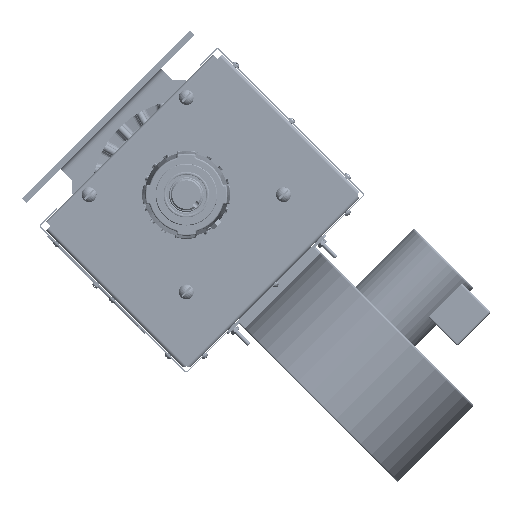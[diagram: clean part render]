
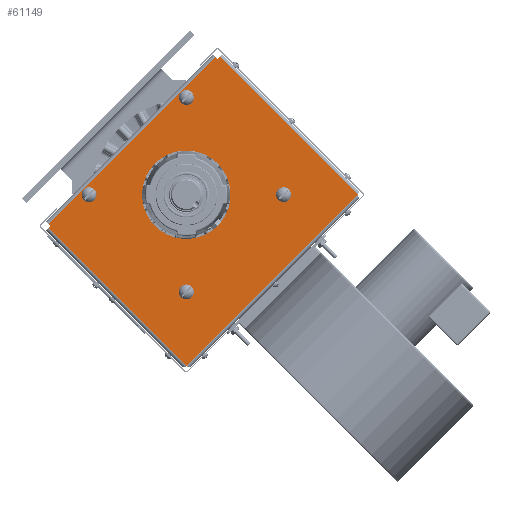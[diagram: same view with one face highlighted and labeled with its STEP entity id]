
A CAD part, front view. The second image highlights one B-rep face of the part: STEP entity #61149.
In plain terms, the highlighted planar face has unit normal (0, -1, 0).
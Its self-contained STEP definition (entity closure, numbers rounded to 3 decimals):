
#6764=LINE('',#170828,#9225);
#6765=LINE('',#170830,#9226);
#6766=LINE('',#170832,#9227);
#6767=LINE('',#170834,#9228);
#6768=LINE('',#170836,#9229);
#6769=LINE('',#170838,#9230);
#6770=LINE('',#170840,#9231);
#6771=LINE('',#170841,#9232);
#9225=VECTOR('',#84615,39.37);
#9226=VECTOR('',#84616,39.37);
#9227=VECTOR('',#84617,39.37);
#9228=VECTOR('',#84618,39.37);
#9229=VECTOR('',#84619,39.37);
#9230=VECTOR('',#84620,39.37);
#9231=VECTOR('',#84621,39.37);
#9232=VECTOR('',#84622,39.37);
#10696=FACE_BOUND('',#18476,.T.);
#10697=FACE_BOUND('',#18477,.T.);
#10698=FACE_BOUND('',#18478,.T.);
#10699=FACE_BOUND('',#18479,.T.);
#10700=FACE_BOUND('',#18480,.T.);
#14396=FACE_OUTER_BOUND('',#18475,.T.);
#18475=EDGE_LOOP('',(#55818,#55819,#55820,#55821,#55822,#55823,#55824,#55825));
#18476=EDGE_LOOP('',(#55826));
#18477=EDGE_LOOP('',(#55827));
#18478=EDGE_LOOP('',(#55828));
#18479=EDGE_LOOP('',(#55829));
#18480=EDGE_LOOP('',(#55830));
#22842=CIRCLE('',#68227,0.284);
#22851=CIRCLE('',#68245,0.284);
#22852=CIRCLE('',#68246,0.284);
#22853=CIRCLE('',#68247,1.75);
#22854=CIRCLE('',#68248,0.284);
#28340=VERTEX_POINT('',#170795);
#28348=VERTEX_POINT('',#170826);
#28349=VERTEX_POINT('',#170827);
#28350=VERTEX_POINT('',#170829);
#28351=VERTEX_POINT('',#170831);
#28352=VERTEX_POINT('',#170833);
#28353=VERTEX_POINT('',#170835);
#28354=VERTEX_POINT('',#170837);
#28355=VERTEX_POINT('',#170839);
#28356=VERTEX_POINT('',#170842);
#28357=VERTEX_POINT('',#170844);
#28358=VERTEX_POINT('',#170846);
#28359=VERTEX_POINT('',#170848);
#37516=EDGE_CURVE('',#28340,#28340,#22842,.T.);
#37529=EDGE_CURVE('',#28348,#28349,#6764,.T.);
#37530=EDGE_CURVE('',#28349,#28350,#6765,.T.);
#37531=EDGE_CURVE('',#28350,#28351,#6766,.T.);
#37532=EDGE_CURVE('',#28351,#28352,#6767,.T.);
#37533=EDGE_CURVE('',#28352,#28353,#6768,.T.);
#37534=EDGE_CURVE('',#28353,#28354,#6769,.T.);
#37535=EDGE_CURVE('',#28354,#28355,#6770,.T.);
#37536=EDGE_CURVE('',#28355,#28348,#6771,.T.);
#37537=EDGE_CURVE('',#28356,#28356,#22851,.T.);
#37538=EDGE_CURVE('',#28357,#28357,#22852,.T.);
#37539=EDGE_CURVE('',#28358,#28358,#22853,.T.);
#37540=EDGE_CURVE('',#28359,#28359,#22854,.T.);
#55818=ORIENTED_EDGE('',*,*,#37529,.T.);
#55819=ORIENTED_EDGE('',*,*,#37530,.T.);
#55820=ORIENTED_EDGE('',*,*,#37531,.T.);
#55821=ORIENTED_EDGE('',*,*,#37532,.T.);
#55822=ORIENTED_EDGE('',*,*,#37533,.T.);
#55823=ORIENTED_EDGE('',*,*,#37534,.T.);
#55824=ORIENTED_EDGE('',*,*,#37535,.T.);
#55825=ORIENTED_EDGE('',*,*,#37536,.T.);
#55826=ORIENTED_EDGE('',*,*,#37537,.F.);
#55827=ORIENTED_EDGE('',*,*,#37538,.F.);
#55828=ORIENTED_EDGE('',*,*,#37539,.T.);
#55829=ORIENTED_EDGE('',*,*,#37540,.F.);
#55830=ORIENTED_EDGE('',*,*,#37516,.F.);
#57424=PLANE('',#68244);
#61149=ADVANCED_FACE('',(#14396,#10696,#10697,#10698,#10699,#10700),#57424,
 .F.);
#68227=AXIS2_PLACEMENT_3D('',#170797,#84575,#84576);
#68244=AXIS2_PLACEMENT_3D('',#170825,#84613,#84614);
#68245=AXIS2_PLACEMENT_3D('',#170843,#84623,#84624);
#68246=AXIS2_PLACEMENT_3D('',#170845,#84625,#84626);
#68247=AXIS2_PLACEMENT_3D('',#170847,#84627,#84628);
#68248=AXIS2_PLACEMENT_3D('',#170849,#84629,#84630);
#84575=DIRECTION('center_axis',(0.,-1.,0.));
#84576=DIRECTION('ref_axis',(0.,0.,-1.));
#84613=DIRECTION('center_axis',(0.,1.,0.));
#84614=DIRECTION('ref_axis',(-0.707,0.,0.707));
#84615=DIRECTION('',(-0.707,0.,-0.707));
#84616=DIRECTION('',(0.707,0.,-0.707));
#84617=DIRECTION('',(-0.707,0.,-0.707));
#84618=DIRECTION('',(0.707,0.,-0.707));
#84619=DIRECTION('',(0.707,0.,0.707));
#84620=DIRECTION('',(-0.707,0.,0.707));
#84621=DIRECTION('',(-0.707,0.,-0.707));
#84622=DIRECTION('',(-0.707,0.,0.707));
#84623=DIRECTION('center_axis',(0.,-1.,0.));
#84624=DIRECTION('ref_axis',(0.,0.,-1.));
#84625=DIRECTION('center_axis',(0.,-1.,0.));
#84626=DIRECTION('ref_axis',(0.,0.,-1.));
#84627=DIRECTION('center_axis',(0.,1.,0.));
#84628=DIRECTION('ref_axis',(-0.707,0.,0.707));
#84629=DIRECTION('center_axis',(0.,-1.,0.));
#84630=DIRECTION('ref_axis',(0.,0.,-1.));
#170795=CARTESIAN_POINT('',(-0.212,-3.446,-3.654));
#170797=CARTESIAN_POINT('Origin',(-0.001,-3.446,-3.845));
#170825=CARTESIAN_POINT('Origin',(0.623,-3.446,-0.624));
#170826=CARTESIAN_POINT('',(1.16,-3.446,5.457));
#170827=CARTESIAN_POINT('',(-5.458,-3.446,-1.162));
#170828=CARTESIAN_POINT('',(1.16,-3.446,5.457));
#170829=CARTESIAN_POINT('',(-5.377,-3.446,-1.243));
#170830=CARTESIAN_POINT('',(-5.553,-3.446,-1.066));
#170831=CARTESIAN_POINT('',(-5.458,-3.446,-1.324));
#170832=CARTESIAN_POINT('',(-5.553,-3.446,-1.42));
#170833=CARTESIAN_POINT('',(0.004,-3.446,-6.787));
#170834=CARTESIAN_POINT('',(-5.458,-3.446,-1.324));
#170835=CARTESIAN_POINT('',(6.785,-3.446,-0.006));
#170836=CARTESIAN_POINT('',(0.004,-3.446,-6.787));
#170837=CARTESIAN_POINT('',(1.323,-3.446,5.457));
#170838=CARTESIAN_POINT('',(6.785,-3.446,-0.006));
#170839=CARTESIAN_POINT('',(1.242,-3.446,5.375));
#170840=CARTESIAN_POINT('',(1.418,-3.446,5.552));
#170841=CARTESIAN_POINT('',(1.065,-3.446,5.552));
#170842=CARTESIAN_POINT('',(-0.213,-3.446,4.034));
#170843=CARTESIAN_POINT('Origin',(-0.001,-3.446,3.845));
#170844=CARTESIAN_POINT('',(-4.051,-3.446,0.197));
#170845=CARTESIAN_POINT('Origin',(-3.846,-3.446,0.));
#170846=CARTESIAN_POINT('',(1.236,-3.446,-1.237));
#170847=CARTESIAN_POINT('Origin',(-0.001,-3.446,0.));
#170848=CARTESIAN_POINT('',(3.654,-3.446,0.212));
#170849=CARTESIAN_POINT('Origin',(3.844,-3.446,0.));
